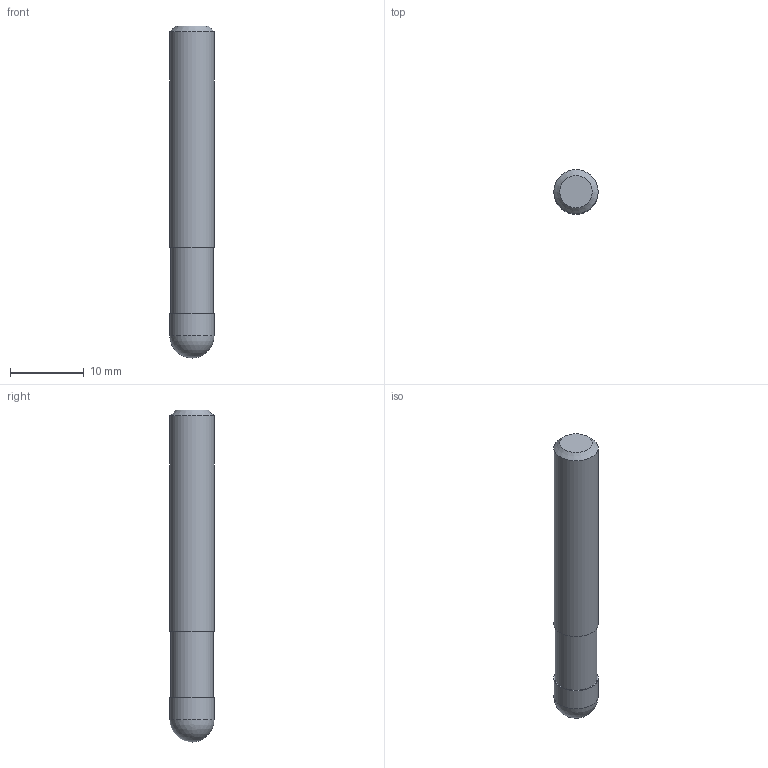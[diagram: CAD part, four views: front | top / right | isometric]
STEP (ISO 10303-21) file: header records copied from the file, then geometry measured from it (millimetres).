
FILE_DESCRIPTION((''),'2;1');
FILE_NAME('C:\Users\nsx150\AppData\Local\Temp\Mastercam 2021\QT8KEW0Y7J\TEMP.step','2021-04-23T11:22:09',(''),(''),'STEP Write','Mastercam 2021 ... CNC Software, Inc.','');
FILE_SCHEMA(('AUTOMOTIVE_DESIGN'));
Length unit declared in the file: millimetre
Products named in the file (1): None
Bounding box: 6 x 6 x 45 mm (x, y, z)
Volume: 1213.8 mm3; surface area: 914.9 mm2
Topology: 2 solids, 2 shells, 9 faces, 13 edges, 8 vertices
Faces by surface type: plane 4, cylinder 3, sphere 1, cone 1
Full cylindrical faces by diameter (mm): 5.7 x1, 6 x2
Entity records: 211 total; most frequent: DIRECTION 36, CARTESIAN_POINT 25, AXIS2_PLACEMENT_3D 18, ORIENTED_EDGE 14, EDGE_LOOP 14, STYLED_ITEM 12, ADVANCED_FACE 9, FACE_BOUND 8
